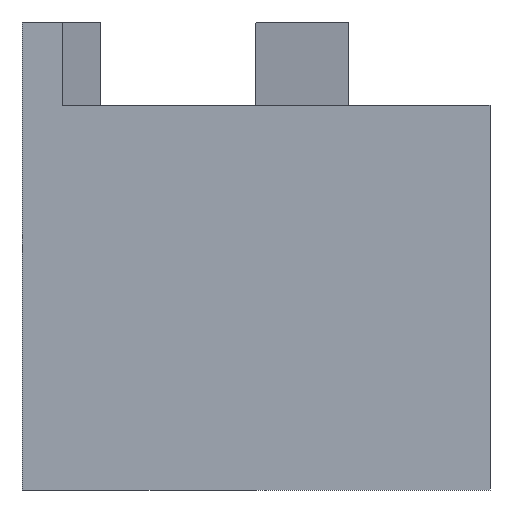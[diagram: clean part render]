
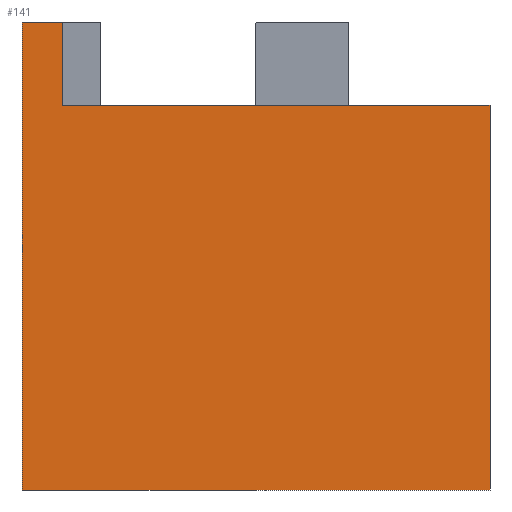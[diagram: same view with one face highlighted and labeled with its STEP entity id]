
A CAD part, left-side view. The second image highlights one B-rep face of the part: STEP entity #141.
In plain terms, the highlighted planar face has unit normal (-1, 0, 0).
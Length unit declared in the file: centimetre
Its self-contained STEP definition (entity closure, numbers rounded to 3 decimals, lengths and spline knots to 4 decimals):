
#17 = CARTESIAN_POINT ( 'NONE',  ( 0., 913.3773, 822.4479 ) ) ;
#23 = DIRECTION ( 'NONE',  ( 0., 0., -1. ) ) ;
#29 = ORIENTED_EDGE ( 'NONE', *, *, #533, .F. ) ;
#34 = VECTOR ( 'NONE', #143, 100. ) ;
#47 = CARTESIAN_POINT ( 'NONE',  ( 0., 913.3773, 822.4479 ) ) ;
#65 = EDGE_LOOP ( 'NONE', ( #291, #384, #424, #434, #498, #29 ) ) ;
#117 = CARTESIAN_POINT ( 'NONE',  ( 0., 1000., 1000. ) ) ;
#120 = EDGE_CURVE ( 'NONE', #392, #531, #388, .T. ) ;
#127 = DIRECTION ( 'NONE',  ( 0., 0., -1. ) ) ;
#139 = LINE ( 'NONE', #17, #304 ) ;
#141 = ADVANCED_FACE ( 'NONE', ( #243 ), #357, .F. ) ;
#143 = DIRECTION ( 'NONE',  ( 0., 0., 1. ) ) ;
#171 = VECTOR ( 'NONE', #23, 100. ) ;
#184 = EDGE_CURVE ( 'NONE', #531, #475, #210, .T. ) ;
#196 = LINE ( 'NONE', #431, #316 ) ;
#210 = LINE ( 'NONE', #402, #487 ) ;
#225 = CARTESIAN_POINT ( 'NONE',  ( 0., 913.3773, 822.4479 ) ) ;
#241 = VERTEX_POINT ( 'NONE', #286 ) ;
#243 = FACE_OUTER_BOUND ( 'NONE', #65, .T. ) ;
#286 = CARTESIAN_POINT ( 'NONE',  ( 0., 913.3773, 1000. ) ) ;
#291 = ORIENTED_EDGE ( 'NONE', *, *, #401, .F. ) ;
#304 = VECTOR ( 'NONE', #514, 100. ) ;
#315 = VERTEX_POINT ( 'NONE', #47 ) ;
#316 = VECTOR ( 'NONE', #426, 100. ) ;
#321 = DIRECTION ( 'NONE',  ( 0., -1., 0. ) ) ;
#322 = CARTESIAN_POINT ( 'NONE',  ( 0., 0., 0. ) ) ;
#333 = CARTESIAN_POINT ( 'NONE',  ( 0., 0., 822.4479 ) ) ;
#339 = AXIS2_PLACEMENT_3D ( 'NONE', #454, #406, #127 ) ;
#342 = VECTOR ( 'NONE', #364, 100. ) ;
#357 = PLANE ( 'NONE',  #339 ) ;
#364 = DIRECTION ( 'NONE',  ( 0., -1., 0. ) ) ;
#368 = CARTESIAN_POINT ( 'NONE',  ( 0., 1000., 1000. ) ) ;
#372 = LINE ( 'NONE', #368, #342 ) ;
#384 = ORIENTED_EDGE ( 'NONE', *, *, #437, .T. ) ;
#388 = LINE ( 'NONE', #117, #171 ) ;
#392 = VERTEX_POINT ( 'NONE', #459 ) ;
#401 = EDGE_CURVE ( 'NONE', #315, #423, #139, .T. ) ;
#402 = CARTESIAN_POINT ( 'NONE',  ( 0., 1000., 0. ) ) ;
#406 = DIRECTION ( 'NONE',  ( 1., 0., 0. ) ) ;
#423 = VERTEX_POINT ( 'NONE', #333 ) ;
#424 = ORIENTED_EDGE ( 'NONE', *, *, #489, .F. ) ;
#426 = DIRECTION ( 'NONE',  ( 0., 0., -1. ) ) ;
#431 = CARTESIAN_POINT ( 'NONE',  ( 0., 0., 1000. ) ) ;
#434 = ORIENTED_EDGE ( 'NONE', *, *, #120, .T. ) ;
#437 = EDGE_CURVE ( 'NONE', #315, #241, #510, .T. ) ;
#454 = CARTESIAN_POINT ( 'NONE',  ( 0., 1000., 1000. ) ) ;
#459 = CARTESIAN_POINT ( 'NONE',  ( 0., 1000., 1000. ) ) ;
#475 = VERTEX_POINT ( 'NONE', #322 ) ;
#487 = VECTOR ( 'NONE', #321, 100. ) ;
#489 = EDGE_CURVE ( 'NONE', #392, #241, #372, .T. ) ;
#498 = ORIENTED_EDGE ( 'NONE', *, *, #184, .T. ) ;
#510 = LINE ( 'NONE', #225, #34 ) ;
#514 = DIRECTION ( 'NONE',  ( 0., -1., 0. ) ) ;
#523 = CARTESIAN_POINT ( 'NONE',  ( 0., 1000., 0. ) ) ;
#531 = VERTEX_POINT ( 'NONE', #523 ) ;
#533 = EDGE_CURVE ( 'NONE', #423, #475, #196, .T. ) ;
